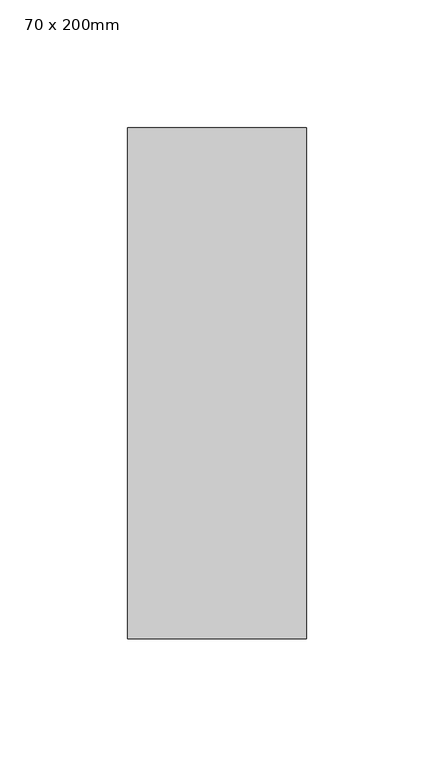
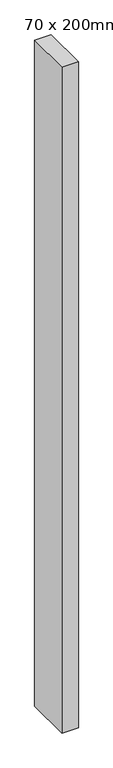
"""IFC4 building model written with IfcOpenShell, lengths in millimetres: member geometry, 矩形竖梃 : 70 x 200mm."""

from ifc_helpers import new_model, si_unit, frame, origin, place, context, project, spatial, polyline, outline, extrude, source, transform, mapped, element, save


def member_70_x_200mm_d2b00836(model_context):
    return source(origin(), model_context, "Body", "SweptSolid", [
        extrude(outline(polyline([(0.0, 100.0), (0.0, -100.0), (-70.0, -100.0), (-70.0, 100.0), (0.0, 100.0)])), frame((0.0, 0.0, -2990.0), z_axis=(0.0, 0.0, 1.0), x_axis=(1.0, 0.0, 0.0)), (0.0, 0.0, 1.0), 2990.0),
    ])


if __name__ == "__main__":
    model = new_model("IFC4")
    model_context = context("Model", 3, world=origin())
    ifc_project = project(units=[si_unit("LENGTHUNIT", "METRE", prefix="MILLI")], contexts=[model_context])
    site = spatial("IfcSite", under=ifc_project)
    building = spatial("IfcBuilding", under=site)
    placement = place(None, origin())
    member_70_x_200mm_shape = member_70_x_200mm_d2b00836(model_context)
    element("IfcMember", 1, ObjectType="矩形竖梃 : 70 x 200mm", at=placement, inside=building, context=model_context, shape_type="MappedRepresentation", body=[
        mapped(member_70_x_200mm_shape, transform((0.0, 0.0, 0.0), x_axis=(1.0, 0.0, 0.0), y_axis=(0.0, 1.0, 0.0), z_axis=(0.0, 0.0, 1.0))),
    ])
    save(model, "model.ifc")
